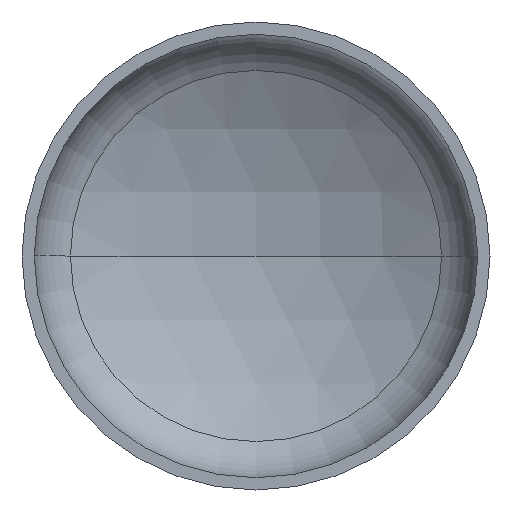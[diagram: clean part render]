
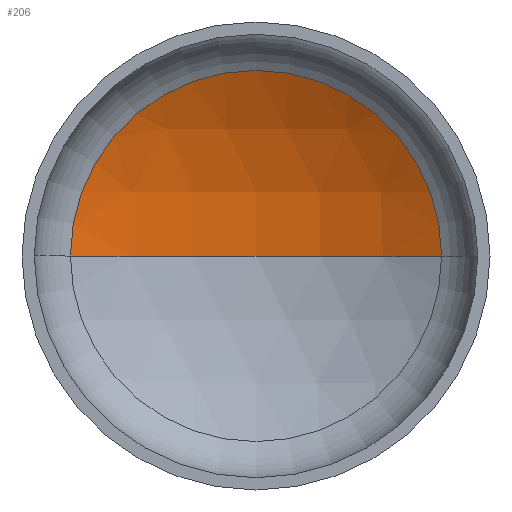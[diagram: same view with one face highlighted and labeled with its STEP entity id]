
A CAD part, front view. The second image highlights one B-rep face of the part: STEP entity #206.
In plain terms, the highlighted spherical face has radius 2560 mm.
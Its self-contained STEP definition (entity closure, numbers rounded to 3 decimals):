
#16 = ORIENTED_EDGE ( 'NONE', *, *, #315, .T. ) ;
#18 = AXIS2_PLACEMENT_3D ( 'NONE', #183, #181, #180 ) ;
#20 = AXIS2_PLACEMENT_3D ( 'NONE', #317, #314, #316 ) ;
#25 = AXIS2_PLACEMENT_3D ( 'NONE', #326, #293, #294 ) ;
#30 = VERTEX_POINT ( 'NONE', #222 ) ;
#37 = CARTESIAN_POINT ( 'NONE',  ( 1268.87, 525.575, 0. ) ) ;
#49 = ORIENTED_EDGE ( 'NONE', *, *, #336, .F. ) ;
#54 = CIRCLE ( 'NONE', #25, 1268.87 ) ;
#60 = AXIS2_PLACEMENT_3D ( 'NONE', #261, #354, #259 ) ;
#96 = VERTEX_POINT ( 'NONE', #309 ) ;
#172 = VERTEX_POINT ( 'NONE', #37 ) ;
#180 = DIRECTION ( 'NONE',  ( 1., 0., 0. ) ) ;
#181 = DIRECTION ( 'NONE',  ( 0., 0., 1. ) ) ;
#183 = CARTESIAN_POINT ( 'NONE',  ( 0., -1697.839, 0. ) ) ;
#186 = SPHERICAL_SURFACE ( 'NONE', #60, 2560. ) ;
#206 = ADVANCED_FACE ( 'NONE', ( #255 ), #186, .F. ) ;
#222 = CARTESIAN_POINT ( 'NONE',  ( 0., 862.161, 0. ) ) ;
#250 = ORIENTED_EDGE ( 'NONE', *, *, #328, .T. ) ;
#255 = FACE_OUTER_BOUND ( 'NONE', #318, .T. ) ;
#259 = DIRECTION ( 'NONE',  ( -1., 0., 0. ) ) ;
#261 = CARTESIAN_POINT ( 'NONE',  ( 0., -1697.839, 0. ) ) ;
#285 = CIRCLE ( 'NONE', #18, 2560. ) ;
#293 = DIRECTION ( 'NONE',  ( 0., -1., 0. ) ) ;
#294 = DIRECTION ( 'NONE',  ( 1., 0., 0. ) ) ;
#309 = CARTESIAN_POINT ( 'NONE',  ( -1268.87, 525.575, 0. ) ) ;
#314 = DIRECTION ( 'NONE',  ( 0., 0., -1. ) ) ;
#315 = EDGE_CURVE ( 'NONE', #172, #96, #54, .T. ) ;
#316 = DIRECTION ( 'NONE',  ( -1., 0., 0. ) ) ;
#317 = CARTESIAN_POINT ( 'NONE',  ( 0., -1697.839, 0. ) ) ;
#318 = EDGE_LOOP ( 'NONE', ( #49, #250, #16 ) ) ;
#326 = CARTESIAN_POINT ( 'NONE',  ( 0., 525.575, 0. ) ) ;
#328 = EDGE_CURVE ( 'NONE', #30, #172, #370, .T. ) ;
#336 = EDGE_CURVE ( 'NONE', #30, #96, #285, .T. ) ;
#354 = DIRECTION ( 'NONE',  ( 0., 0., -1. ) ) ;
#370 = CIRCLE ( 'NONE', #20, 2560. ) ;
